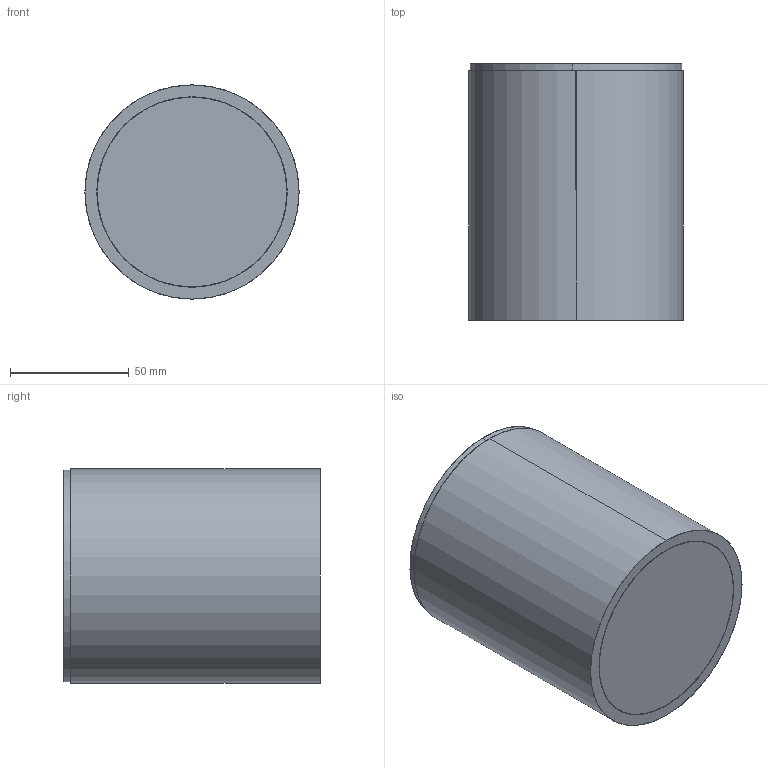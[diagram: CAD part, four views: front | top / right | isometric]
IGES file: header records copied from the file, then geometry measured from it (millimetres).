
Start section: SolidWorks IGES file using analytic representation for surfaces
Global section: file name: F:\GABRYSIA\MODELE 3D\EDESA_M_9107_9108_WWW\EDESA_M_9107_9108.IGS; native system: SolidWorks 2017; preprocessor: SolidWorks 2017; author: Togambi; date: 200710.145812; units: millimetre
Bounding box: 90 x 107.86 x 90 mm (x, y, z)
Surface area: 130309.2 mm2 (no closed solid volume)
Topology: 0 solids, 0 shells, 70 faces, 2192 edges, 2192 vertices
Faces by surface type: revolution 42, bspline 28
